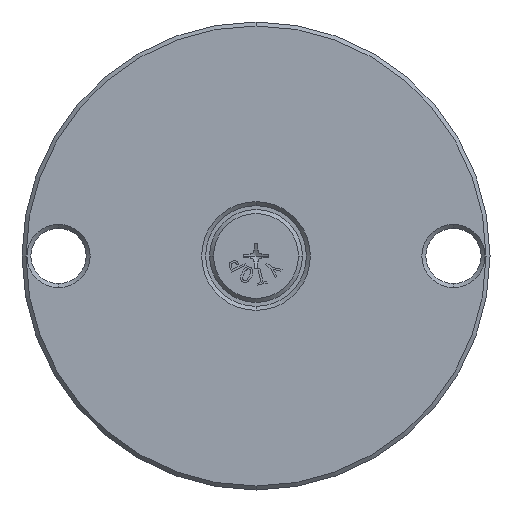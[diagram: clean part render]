
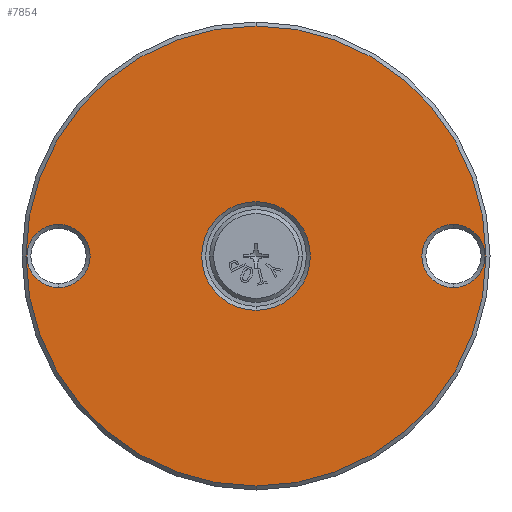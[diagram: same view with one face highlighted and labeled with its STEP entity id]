
A CAD part, front view. The second image highlights one B-rep face of the part: STEP entity #7854.
In plain terms, the highlighted planar face has unit normal (0, -1, 0).
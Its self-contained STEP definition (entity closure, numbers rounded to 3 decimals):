
#125 = AXIS2_PLACEMENT_3D ( 'NONE', #5715, #4446, #3806 ) ;
#243 = EDGE_CURVE ( 'NONE', #4930, #870, #6620, .T. ) ;
#348 = CARTESIAN_POINT ( 'NONE',  ( 0., 0., 0. ) ) ;
#430 = CARTESIAN_POINT ( 'NONE',  ( 50., 0., 0. ) ) ;
#431 = VERTEX_POINT ( 'NONE', #1575 ) ;
#518 = CARTESIAN_POINT ( 'NONE',  ( 59.25, 0., 0. ) ) ;
#526 = VERTEX_POINT ( 'NONE', #5633 ) ;
#669 = CIRCLE ( 'NONE', #5612, 8. ) ;
#711 = EDGE_CURVE ( 'NONE', #526, #2348, #4601, .T. ) ;
#870 = VERTEX_POINT ( 'NONE', #7973 ) ;
#1081 = DIRECTION ( 'NONE',  ( 0., 1., 0. ) ) ;
#1197 = AXIS2_PLACEMENT_3D ( 'NONE', #3015, #3656, #3731 ) ;
#1303 = AXIS2_PLACEMENT_3D ( 'NONE', #518, #7066, #5778 ) ;
#1340 = ORIENTED_EDGE ( 'NONE', *, *, #6437, .T. ) ;
#1349 = CARTESIAN_POINT ( 'NONE',  ( -50., 0., 0. ) ) ;
#1441 = AXIS2_PLACEMENT_3D ( 'NONE', #6534, #7088, #3942 ) ;
#1442 = DIRECTION ( 'NONE',  ( 0., 1., 0. ) ) ;
#1575 = CARTESIAN_POINT ( 'NONE',  ( 0., 0., 58.25 ) ) ;
#1731 = DIRECTION ( 'NONE',  ( 0., -1., 0. ) ) ;
#1771 = CIRCLE ( 'NONE', #7270, 8. ) ;
#1782 = CIRCLE ( 'NONE', #2997, 58.25 ) ;
#1817 = DIRECTION ( 'NONE',  ( 0., 0., 1. ) ) ;
#1983 = EDGE_CURVE ( 'NONE', #870, #4930, #5771, .T. ) ;
#2348 = VERTEX_POINT ( 'NONE', #7512 ) ;
#2711 = EDGE_LOOP ( 'NONE', ( #8058, #3541 ) ) ;
#2997 = AXIS2_PLACEMENT_3D ( 'NONE', #348, #1731, #6918 ) ;
#3015 = CARTESIAN_POINT ( 'NONE',  ( 0., 0., 0. ) ) ;
#3095 = FACE_BOUND ( 'NONE', #7578, .T. ) ;
#3501 = CARTESIAN_POINT ( 'NONE',  ( 50., 0., 8. ) ) ;
#3541 = ORIENTED_EDGE ( 'NONE', *, *, #711, .T. ) ;
#3656 = DIRECTION ( 'NONE',  ( 0., -1., 0. ) ) ;
#3731 = DIRECTION ( 'NONE',  ( 0., 0., 1. ) ) ;
#3806 = DIRECTION ( 'NONE',  ( 0., 0., 1. ) ) ;
#3871 = ORIENTED_EDGE ( 'NONE', *, *, #243, .T. ) ;
#3898 = PLANE ( 'NONE',  #1303 ) ;
#3942 = DIRECTION ( 'NONE',  ( 0., 0., 1. ) ) ;
#4049 = CARTESIAN_POINT ( 'NONE',  ( -50., 0., 0. ) ) ;
#4234 = AXIS2_PLACEMENT_3D ( 'NONE', #4049, #1442, #4727 ) ;
#4291 = ORIENTED_EDGE ( 'NONE', *, *, #4343, .T. ) ;
#4343 = EDGE_CURVE ( 'NONE', #7626, #4980, #669, .T. ) ;
#4350 = ORIENTED_EDGE ( 'NONE', *, *, #1983, .T. ) ;
#4446 = DIRECTION ( 'NONE',  ( 0., 1., 0. ) ) ;
#4601 = CIRCLE ( 'NONE', #4234, 8. ) ;
#4603 = EDGE_CURVE ( 'NONE', #431, #6085, #1782, .T. ) ;
#4727 = DIRECTION ( 'NONE',  ( 0., 0., 1. ) ) ;
#4830 = FACE_BOUND ( 'NONE', #2711, .T. ) ;
#4930 = VERTEX_POINT ( 'NONE', #6630 ) ;
#4980 = VERTEX_POINT ( 'NONE', #3501 ) ;
#5036 = CIRCLE ( 'NONE', #1197, 58.25 ) ;
#5151 = EDGE_CURVE ( 'NONE', #4980, #7626, #8059, .T. ) ;
#5180 = DIRECTION ( 'NONE',  ( 0., 1., 0. ) ) ;
#5612 = AXIS2_PLACEMENT_3D ( 'NONE', #430, #1081, #5647 ) ;
#5633 = CARTESIAN_POINT ( 'NONE',  ( -50., 0., 8. ) ) ;
#5647 = DIRECTION ( 'NONE',  ( 0., 0., 1. ) ) ;
#5715 = CARTESIAN_POINT ( 'NONE',  ( 0., 0., 0. ) ) ;
#5753 = DIRECTION ( 'NONE',  ( 0., 1., 0. ) ) ;
#5771 = CIRCLE ( 'NONE', #1441, 13.75 ) ;
#5778 = DIRECTION ( 'NONE',  ( 0., 0., 1. ) ) ;
#5829 = EDGE_CURVE ( 'NONE', #2348, #526, #1771, .T. ) ;
#6059 = EDGE_LOOP ( 'NONE', ( #6158, #1340 ) ) ;
#6085 = VERTEX_POINT ( 'NONE', #7616 ) ;
#6124 = FACE_BOUND ( 'NONE', #7488, .T. ) ;
#6158 = ORIENTED_EDGE ( 'NONE', *, *, #4603, .T. ) ;
#6330 = CARTESIAN_POINT ( 'NONE',  ( 50., 0., -8. ) ) ;
#6437 = EDGE_CURVE ( 'NONE', #6085, #431, #5036, .T. ) ;
#6503 = DIRECTION ( 'NONE',  ( 0., 0., 1. ) ) ;
#6534 = CARTESIAN_POINT ( 'NONE',  ( 0., 0., 0. ) ) ;
#6620 = CIRCLE ( 'NONE', #125, 13.75 ) ;
#6630 = CARTESIAN_POINT ( 'NONE',  ( 0., 0., 13.75 ) ) ;
#6918 = DIRECTION ( 'NONE',  ( 0., 0., 1. ) ) ;
#7066 = DIRECTION ( 'NONE',  ( 0., 1., 0. ) ) ;
#7088 = DIRECTION ( 'NONE',  ( 0., 1., 0. ) ) ;
#7224 = FACE_OUTER_BOUND ( 'NONE', #6059, .T. ) ;
#7270 = AXIS2_PLACEMENT_3D ( 'NONE', #1349, #5180, #6503 ) ;
#7436 = AXIS2_PLACEMENT_3D ( 'NONE', #8245, #5753, #1817 ) ;
#7488 = EDGE_LOOP ( 'NONE', ( #4350, #3871 ) ) ;
#7512 = CARTESIAN_POINT ( 'NONE',  ( -50., 0., -8. ) ) ;
#7578 = EDGE_LOOP ( 'NONE', ( #4291, #7721 ) ) ;
#7616 = CARTESIAN_POINT ( 'NONE',  ( 0., 0., -58.25 ) ) ;
#7626 = VERTEX_POINT ( 'NONE', #6330 ) ;
#7721 = ORIENTED_EDGE ( 'NONE', *, *, #5151, .T. ) ;
#7854 = ADVANCED_FACE ( 'NONE', ( #3095, #4830, #7224, #6124 ), #3898, .F. ) ;
#7973 = CARTESIAN_POINT ( 'NONE',  ( 0., 0., -13.75 ) ) ;
#8058 = ORIENTED_EDGE ( 'NONE', *, *, #5829, .T. ) ;
#8059 = CIRCLE ( 'NONE', #7436, 8. ) ;
#8245 = CARTESIAN_POINT ( 'NONE',  ( 50., 0., 0. ) ) ;
